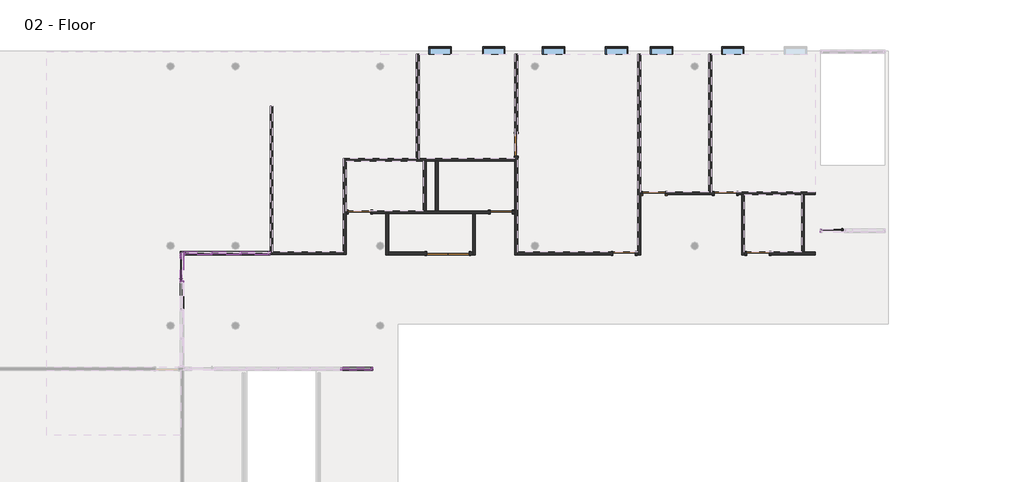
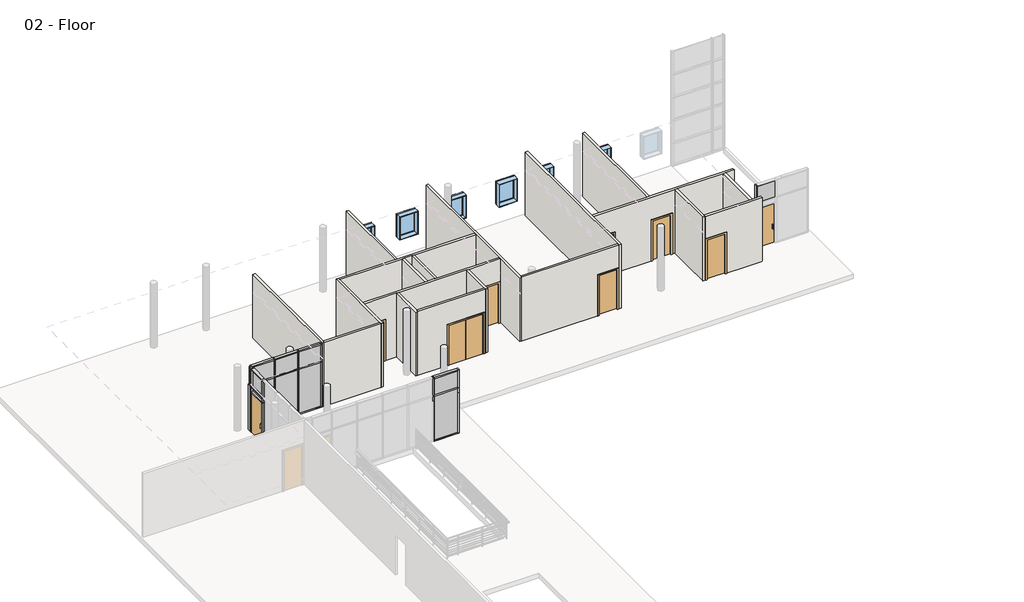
# One storey, part 3 of 5: 40 members, 19 walls, 13 plates, 10 doors, 6 windows.
"""IFC4 building model written with IfcOpenShell, lengths in millimetres."""

from ifc_helpers import new_model, si_unit, frame, origin, place, context, project, spatial, polyline, outline, extrude, faceted_brep, transform, mapped, element, save
from components import curtain_wall_sgl_glass_curtain_wall_sgl_glass_c2d4b377, curtain_wall_sgl_glass_curtain_wall_sgl_glass_ab2568d1, door_80fcf8b2, door_305aa2a5, door_e5f9f3c4, member_47e31e63, member_f0fea5a5, member_ee409385, member_18e22e2d, member_9193c932, member_c617b399, member_69c8e218, member_a08f6adc, member_e80433b6, member_4904f910, member_6ef8dc49, member_309cb93c, member_c327c56d, member_410c6227, member_73c23c35, member_6186cc23, member_5d67b9fc, member_a50b3cda, member_0f16ceef, member_7712ce12, member_ba732fc4, system_panel_glazed_d847cfee, system_panel_glazed_a5fae1e5, system_panel_glazed_8c2c847a, system_panel_glazed_087d2106, system_panel_glazed_8a7cc684, system_panel_glazed_e676b032, system_panel_glazed_652e8fc4, system_panel_glazed_63e32c76, system_panel_glazed_72fe8651, system_panel_glazed_1b64d018, system_panel_glazed_47952c94, system_panel_glazed_99e16266, window_dfee3f32

model = new_model("IFC4")

# Units and contexts
model_context = context("Model", 3, world=origin())
ifc_project = project(units=[si_unit("LENGTHUNIT", "METRE", prefix="MILLI")], contexts=[model_context])

# Site, building, storey
site = spatial("IfcSite", under=ifc_project)
building = spatial("IfcBuilding", under=site)
storey = spatial("IfcBuildingStorey", under=building, Name="02 - Floor", Elevation=3657.6)

# Doors
placement = place(None, origin())
curtain_wall_sgl_glass_curtain_wall_sgl_glass_shape = curtain_wall_sgl_glass_curtain_wall_sgl_glass_c2d4b377(model_context)
element("IfcDoor", 1, ObjectType="Curtain Wall Sgl Glass : Curtain Wall Sgl Glass", at=placement, inside=storey, context=model_context, shape_type="MappedRepresentation", body=[
    mapped(curtain_wall_sgl_glass_curtain_wall_sgl_glass_shape, transform((34925.9207476, 46523.2, 3657.6), x_axis=(-1.0, 0.0, 0.0), y_axis=(0.0, -1.0, 0.0), z_axis=(0.0, 0.0, 1.0))),
])
curtain_wall_sgl_glass_curtain_wall_sgl_glass_2_shape = curtain_wall_sgl_glass_curtain_wall_sgl_glass_ab2568d1(model_context)
element("IfcDoor", 2, ObjectType="Curtain Wall Sgl Glass : Curtain Wall Sgl Glass", at=placement, inside=storey, context=model_context, shape_type="MappedRepresentation", body=[
    mapped(curtain_wall_sgl_glass_curtain_wall_sgl_glass_2_shape, transform((8421.0207476, 44935.7, 3657.6), x_axis=(0.0, 1.0, 0.0), y_axis=(-1.0, 0.0, 0.0), z_axis=(0.0, 0.0, 1.0))),
])
door_shape = door_80fcf8b2(model_context)
element("IfcDoor", 3, ObjectType="Double-Flush : 68\" x 84\"", at=placement, inside=storey, context=model_context, shape_type="MappedRepresentation", body=[
    mapped(door_shape, transform((19241.4207476, 45602.45, 3657.6), x_axis=(-1.0, 0.0, 0.0), y_axis=(0.0, -1.0, 0.0), z_axis=(0.0, 0.0, 1.0))),
])
door_2_shape = door_305aa2a5(model_context)
element("IfcDoor", 4, ObjectType="Single-Flush : 36\" x 84\"", at=placement, inside=storey, context=model_context, shape_type="MappedRepresentation", body=[
    mapped(door_2_shape, transform((15647.3207476, 47281.2000002, 3657.6), x_axis=(-1.0, 0.0, 0.0), y_axis=(0.0, -1.0, 0.0), z_axis=(0.0, 0.0, 1.0))),
])
element("IfcDoor", 5, ObjectType="Single-Flush : 36\" x 84\"", at=placement, inside=storey, context=model_context, shape_type="MappedRepresentation", body=[
    mapped(door_2_shape, transform((22022.7207476, 50015.7, 3657.6), x_axis=(0.0, -1.0, 0.0), y_axis=(1.0, 0.0, 0.0), z_axis=(0.0, 0.0, 1.0))),
])
element("IfcDoor", 6, ObjectType="Single-Flush : 36\" x 84\"", at=placement, inside=storey, context=model_context, shape_type="MappedRepresentation", body=[
    mapped(door_2_shape, transform((27636.1207476, 48047.2, 3657.6), x_axis=(-1.0, 0.0, 0.0), y_axis=(0.0, -1.0, 0.0), z_axis=(0.0, 0.0, 1.0))),
])
element("IfcDoor", 7, ObjectType="Single-Flush : 36\" x 84\"", at=placement, inside=storey, context=model_context, shape_type="MappedRepresentation", body=[
    mapped(door_2_shape, transform((30531.7207476, 48047.2, 3657.6), x_axis=(-1.0, 0.0, 0.0), y_axis=(0.0, -1.0, 0.0), z_axis=(0.0, 0.0, 1.0))),
])
element("IfcDoor", 8, ObjectType="Single-Flush : 36\" x 84\"", at=placement, inside=storey, context=model_context, shape_type="MappedRepresentation", body=[
    mapped(door_2_shape, transform((31865.2207476, 45602.45, 3657.6), x_axis=(-1.0, 0.0, 0.0), y_axis=(0.0, -1.0, 0.0), z_axis=(0.0, 0.0, 1.0))),
])
door_3_shape = door_e5f9f3c4(model_context)
element("IfcDoor", 9, ObjectType="Single-Flush : 36\" x 84\"", at=placement, inside=storey, context=model_context, shape_type="MappedRepresentation", body=[
    mapped(door_3_shape, transform((21413.1207476, 47281.2000002, 3657.6), x_axis=(1.0, 0.0, 0.0), y_axis=(0.0, 1.0, 0.0), z_axis=(0.0, 0.0, 1.0))),
])
element("IfcDoor", 10, ObjectType="Single-Flush : 36\" x 84\"", at=placement, inside=storey, context=model_context, shape_type="MappedRepresentation", body=[
    mapped(door_3_shape, transform((26416.9207476, 45602.45, 3657.6), x_axis=(1.0, 0.0, 0.0), y_axis=(0.0, 1.0, 0.0), z_axis=(0.0, 0.0, 1.0))),
])

# Members
member_shape = member_47e31e63(model_context)
element("IfcMember", 11, ObjectType="L Corner Mullion : 5\" x 5\" Corner", at=placement, inside=storey, context=model_context, shape_type="MappedRepresentation", body=[
    mapped(member_shape, transform((8421.0207476, 45608.8, 3657.6), x_axis=(-1.0, 0.0, 0.0), y_axis=(0.0, 1.0, 0.0), z_axis=(0.0, 0.0, -1.0))),
])
member_2_shape = member_f0fea5a5(model_context)
element("IfcMember", 12, ObjectType="Rectangular Mullion : 2.5\" x 5\" rectangular", at=placement, inside=storey, context=model_context, shape_type="MappedRepresentation", body=[
    mapped(member_2_shape, transform((10808.6207476, 45608.8, 3657.6), x_axis=(-1.0, 0.0, 0.0), y_axis=(0.0, 1.0, 0.0), z_axis=(0.0, 0.0, -1.0))),
])
element("IfcMember", 13, ObjectType="Rectangular Mullion : 2.5\" x 5\" rectangular", at=placement, inside=storey, context=model_context, shape_type="MappedRepresentation", body=[
    mapped(member_2_shape, transform((9614.8207476, 45608.8, 3657.6), x_axis=(-1.0, 0.0, 0.0), y_axis=(0.0, 1.0, 0.0), z_axis=(0.0, 0.0, -1.0))),
])
member_3_shape = member_ee409385(model_context)
element("IfcMember", 14, ObjectType="Rectangular Mullion : 2.5\" x 5\" rectangular", at=placement, inside=storey, context=model_context, shape_type="MappedRepresentation", body=[
    mapped(member_3_shape, transform((12002.4207476, 45608.8, 6096.0), x_axis=(1.0, 0.0, 0.0), y_axis=(0.0, 1.0, 0.0), z_axis=(0.0, 0.0, 1.0))),
])
member_4_shape = member_18e22e2d(model_context)
element("IfcMember", 15, ObjectType="Rectangular Mullion : 2.5\" x 5\" rectangular", at=placement, inside=storey, context=model_context, shape_type="MappedRepresentation", body=[
    mapped(member_4_shape, transform((14904.846391, 40897.1, 6096.0), x_axis=(-1.0, 0.0, 0.0), y_axis=(0.0, 1.0, 0.0), z_axis=(0.0, 0.0, -1.0))),
])
element("IfcMember", 16, ObjectType="Rectangular Mullion : 2.5\" x 5\" rectangular", at=placement, inside=storey, context=model_context, shape_type="MappedRepresentation", body=[
    mapped(member_4_shape, transform((10808.6207476, 45608.8, 6096.0), x_axis=(-1.0, 0.0, 0.0), y_axis=(0.0, 1.0, 0.0), z_axis=(0.0, 0.0, -1.0))),
])
element("IfcMember", 17, ObjectType="Rectangular Mullion : 2.5\" x 5\" rectangular", at=placement, inside=storey, context=model_context, shape_type="MappedRepresentation", body=[
    mapped(member_4_shape, transform((9614.8207476, 45608.8, 6096.0), x_axis=(-1.0, 0.0, 0.0), y_axis=(0.0, 1.0, 0.0), z_axis=(0.0, 0.0, -1.0))),
])
element("IfcMember", 18, ObjectType="Rectangular Mullion : 2.5\" x 5\" rectangular", at=placement, inside=storey, context=model_context, shape_type="MappedRepresentation", body=[
    mapped(member_4_shape, transform((8421.0207476, 44446.75, 6096.0), x_axis=(0.0, -1.0, 0.0), y_axis=(-1.0, 0.0, 0.0), z_axis=(0.0, 0.0, -1.0))),
])
element("IfcMember", 19, ObjectType="Rectangular Mullion : 2.5\" x 5\" rectangular", at=placement, inside=storey, context=model_context, shape_type="MappedRepresentation", body=[
    mapped(member_4_shape, transform((8421.0207476, 45424.65, 6096.0), x_axis=(0.0, -1.0, 0.0), y_axis=(-1.0, 0.0, 0.0), z_axis=(0.0, 0.0, -1.0))),
])
member_5_shape = member_9193c932(model_context)
element("IfcMember", 20, ObjectType="Rectangular Mullion : 2.5\" x 5\" rectangular", at=placement, inside=storey, context=model_context, shape_type="MappedRepresentation", body=[
    mapped(member_5_shape, transform((16188.9115197, 40897.1, 7061.2), x_axis=(1.0, 0.0, 0.0), y_axis=(0.0, 1.0, 0.0), z_axis=(0.0, 0.0, 1.0))),
])
element("IfcMember", 21, ObjectType="Rectangular Mullion : 2.5\" x 5\" rectangular", at=placement, inside=storey, context=model_context, shape_type="MappedRepresentation", body=[
    mapped(member_5_shape, transform((12002.4207476, 45608.8, 7061.2), x_axis=(1.0, 0.0, 0.0), y_axis=(0.0, 1.0, 0.0), z_axis=(0.0, 0.0, 1.0))),
])
element("IfcMember", 22, ObjectType="Rectangular Mullion : 2.5\" x 5\" rectangular", at=placement, inside=storey, context=model_context, shape_type="MappedRepresentation", body=[
    mapped(member_5_shape, transform((34405.2207476, 46523.2, 7061.2), x_axis=(-1.0, 0.0, 0.0), y_axis=(0.0, -1.0, 0.0), z_axis=(0.0, 0.0, 1.0))),
])
member_6_shape = member_c617b399(model_context)
element("IfcMember", 23, ObjectType="Rectangular Mullion : 2.5\" x 5\" rectangular", at=placement, inside=storey, context=model_context, shape_type="MappedRepresentation", body=[
    mapped(member_6_shape, transform((14936.596391, 40897.1, 7061.2), x_axis=(0.0, 0.0, 1.0), y_axis=(0.0, 1.0, 0.0), z_axis=(-1.0, 0.0, 0.0))),
])
element("IfcMember", 24, ObjectType="Rectangular Mullion : 2.5\" x 5\" rectangular", at=placement, inside=storey, context=model_context, shape_type="MappedRepresentation", body=[
    mapped(member_6_shape, transform((16125.4115197, 40897.1, 3657.6), x_axis=(0.0, 0.0, -1.0), y_axis=(0.0, 1.0, 0.0), z_axis=(1.0, 0.0, 0.0))),
])
member_7_shape = member_69c8e218(model_context)
element("IfcMember", 25, ObjectType="Rectangular Mullion : 2.5\" x 5\" rectangular", at=placement, inside=storey, context=model_context, shape_type="MappedRepresentation", body=[
    mapped(member_7_shape, transform((8484.5207476, 45608.8, 7061.2), x_axis=(0.0, 0.0, 1.0), y_axis=(0.0, 1.0, 0.0), z_axis=(-1.0, 0.0, 0.0))),
])
element("IfcMember", 26, ObjectType="Rectangular Mullion : 2.5\" x 5\" rectangular", at=placement, inside=storey, context=model_context, shape_type="MappedRepresentation", body=[
    mapped(member_7_shape, transform((10840.3707476, 45608.8, 7061.2), x_axis=(0.0, 0.0, 1.0), y_axis=(0.0, 1.0, 0.0), z_axis=(-1.0, 0.0, 0.0))),
])
element("IfcMember", 27, ObjectType="Rectangular Mullion : 2.5\" x 5\" rectangular", at=placement, inside=storey, context=model_context, shape_type="MappedRepresentation", body=[
    mapped(member_7_shape, transform((11938.9207476, 45608.8, 3657.6), x_axis=(0.0, 0.0, -1.0), y_axis=(0.0, 1.0, 0.0), z_axis=(1.0, 0.0, 0.0))),
])
element("IfcMember", 28, ObjectType="Rectangular Mullion : 2.5\" x 5\" rectangular", at=placement, inside=storey, context=model_context, shape_type="MappedRepresentation", body=[
    mapped(member_7_shape, transform((8421.0207476, 44415.0, 3657.6), x_axis=(0.0, 0.0, -1.0), y_axis=(-1.0, 0.0, 0.0), z_axis=(0.0, 1.0, 0.0))),
])
member_8_shape = member_a08f6adc(model_context)
element("IfcMember", 29, ObjectType="Rectangular Mullion : 2.5\" x 5\" rectangular", at=placement, inside=storey, context=model_context, shape_type="MappedRepresentation", body=[
    mapped(member_8_shape, transform((10776.8707476, 45608.8, 3657.6), x_axis=(0.0, 0.0, -1.0), y_axis=(0.0, 1.0, 0.0), z_axis=(1.0, 0.0, 0.0))),
])
member_9_shape = member_e80433b6(model_context)
element("IfcMember", 30, ObjectType="Rectangular Mullion : 2.5\" x 5\" rectangular", at=placement, inside=storey, context=model_context, shape_type="MappedRepresentation", body=[
    mapped(member_9_shape, transform((10840.3707476, 45608.8, 6096.0), x_axis=(0.0, 0.0, 1.0), y_axis=(0.0, 1.0, 0.0), z_axis=(-1.0, 0.0, 0.0))),
])
member_10_shape = member_4904f910(model_context)
element("IfcMember", 31, ObjectType="Rectangular Mullion : 2.5\" x 5\" rectangular", at=placement, inside=storey, context=model_context, shape_type="MappedRepresentation", body=[
    mapped(member_10_shape, transform((9646.5707476, 45608.8, 6096.0), x_axis=(0.0, 0.0, 1.0), y_axis=(0.0, 1.0, 0.0), z_axis=(-1.0, 0.0, 0.0))),
])
element("IfcMember", 32, ObjectType="Rectangular Mullion : 2.5\" x 5\" rectangular", at=placement, inside=storey, context=model_context, shape_type="MappedRepresentation", body=[
    mapped(member_8_shape, transform((9646.5707476, 45608.8, 7061.2), x_axis=(0.0, 0.0, 1.0), y_axis=(0.0, 1.0, 0.0), z_axis=(-1.0, 0.0, 0.0))),
])
element("IfcMember", 33, ObjectType="Rectangular Mullion : 2.5\" x 5\" rectangular", at=placement, inside=storey, context=model_context, shape_type="MappedRepresentation", body=[
    mapped(member_5_shape, transform((8421.0207476, 45608.8, 6096.0), x_axis=(-1.0, 0.0, 0.0), y_axis=(0.0, 1.0, 0.0), z_axis=(0.0, 0.0, -1.0))),
])
element("IfcMember", 34, ObjectType="Rectangular Mullion : 2.5\" x 5\" rectangular", at=placement, inside=storey, context=model_context, shape_type="MappedRepresentation", body=[
    mapped(member_5_shape, transform((8421.0207476, 45608.8, 7061.2), x_axis=(0.0, 1.0, 0.0), y_axis=(-1.0, 0.0, 0.0), z_axis=(0.0, 0.0, 1.0))),
])
member_11_shape = member_6ef8dc49(model_context)
element("IfcMember", 35, ObjectType="Rectangular Mullion : 2.5\" x 5\" rectangular", at=placement, inside=storey, context=model_context, shape_type="MappedRepresentation", body=[
    mapped(member_11_shape, transform((9583.0707476, 45608.8, 3657.6), x_axis=(0.0, 0.0, -1.0), y_axis=(0.0, 1.0, 0.0), z_axis=(1.0, 0.0, 0.0))),
])
member_12_shape = member_309cb93c(model_context)
element("IfcMember", 36, ObjectType="Rectangular Mullion : 2.5\" x 5\" rectangular", at=placement, inside=storey, context=model_context, shape_type="MappedRepresentation", body=[
    mapped(member_12_shape, transform((8548.0207476, 45608.8, 6096.0), x_axis=(0.0, 0.0, 1.0), y_axis=(0.0, 1.0, 0.0), z_axis=(-1.0, 0.0, 0.0))),
])
member_13_shape = member_c327c56d(model_context)
element("IfcMember", 37, ObjectType="Rectangular Mullion : 2.5\" x 5\" rectangular", at=placement, inside=storey, context=model_context, shape_type="MappedRepresentation", body=[
    mapped(member_13_shape, transform((34405.2207476, 46523.2, 6096.0), x_axis=(-1.0, 0.0, 0.0), y_axis=(0.0, -1.0, 0.0), z_axis=(0.0, 0.0, 1.0))),
])
member_14_shape = member_410c6227(model_context)
element("IfcMember", 38, ObjectType="Rectangular Mullion : 2.5\" x 5\" rectangular", at=placement, inside=storey, context=model_context, shape_type="MappedRepresentation", body=[
    mapped(member_14_shape, transform((8421.0207476, 44478.5, 6096.0), x_axis=(0.0, 0.0, 1.0), y_axis=(-1.0, 0.0, 0.0), z_axis=(0.0, -1.0, 0.0))),
])
element("IfcMember", 39, ObjectType="Rectangular Mullion : 2.5\" x 5\" rectangular", at=placement, inside=storey, context=model_context, shape_type="MappedRepresentation", body=[
    mapped(member_14_shape, transform((8421.0207476, 44478.5, 5822.95), x_axis=(0.0, 0.0, 1.0), y_axis=(-1.0, 0.0, 0.0), z_axis=(0.0, -1.0, 0.0))),
])
member_15_shape = member_73c23c35(model_context)
element("IfcMember", 40, ObjectType="Rectangular Mullion : 2.5\" x 5\" rectangular", at=placement, inside=storey, context=model_context, shape_type="MappedRepresentation", body=[
    mapped(member_15_shape, transform((8421.0207476, 44478.5, 7061.2), x_axis=(0.0, 0.0, 1.0), y_axis=(-1.0, 0.0, 0.0), z_axis=(0.0, -1.0, 0.0))),
])
member_16_shape = member_6186cc23(model_context)
element("IfcMember", 41, ObjectType="Rectangular Mullion : 2.5\" x 5\" rectangular", at=placement, inside=storey, context=model_context, shape_type="MappedRepresentation", body=[
    mapped(member_16_shape, transform((8421.0207476, 44446.75, 3657.6), x_axis=(0.0, -1.0, 0.0), y_axis=(-1.0, 0.0, 0.0), z_axis=(0.0, 0.0, -1.0))),
])
element("IfcMember", 42, ObjectType="Rectangular Mullion : 2.5\" x 5\" rectangular", at=placement, inside=storey, context=model_context, shape_type="MappedRepresentation", body=[
    mapped(member_16_shape, transform((8421.0207476, 45424.65, 3657.6), x_axis=(0.0, -1.0, 0.0), y_axis=(-1.0, 0.0, 0.0), z_axis=(0.0, 0.0, -1.0))),
])
member_17_shape = member_5d67b9fc(model_context)
element("IfcMember", 43, ObjectType="Rectangular Mullion : 2.5\" x 5\" rectangular", at=placement, inside=storey, context=model_context, shape_type="MappedRepresentation", body=[
    mapped(member_17_shape, transform((8421.0207476, 45424.65, 5822.95), x_axis=(0.0, -1.0, 0.0), y_axis=(-1.0, 0.0, 0.0), z_axis=(0.0, 0.0, -1.0))),
])
element("IfcMember", 44, ObjectType="Rectangular Mullion : 2.5\" x 5\" rectangular", at=placement, inside=storey, context=model_context, shape_type="MappedRepresentation", body=[
    mapped(member_17_shape, transform((8421.0207476, 44446.75, 5822.95), x_axis=(0.0, -1.0, 0.0), y_axis=(-1.0, 0.0, 0.0), z_axis=(0.0, 0.0, -1.0))),
])
element("IfcMember", 45, ObjectType="Rectangular Mullion : 2.5\" x 5\" rectangular", at=placement, inside=storey, context=model_context, shape_type="MappedRepresentation", body=[
    mapped(member_17_shape, transform((14904.846391, 40897.1, 5822.95), x_axis=(-1.0, 0.0, 0.0), y_axis=(0.0, 1.0, 0.0), z_axis=(0.0, 0.0, -1.0))),
])
element("IfcMember", 46, ObjectType="Rectangular Mullion : 2.5\" x 5\" rectangular", at=placement, inside=storey, context=model_context, shape_type="MappedRepresentation", body=[
    mapped(member_13_shape, transform((16188.9115197, 40897.1, 6096.0), x_axis=(1.0, 0.0, 0.0), y_axis=(0.0, 1.0, 0.0), z_axis=(0.0, 0.0, 1.0))),
])
member_18_shape = member_a50b3cda(model_context)
element("IfcMember", 47, ObjectType="Rectangular Mullion : 2.5\" x 5\" rectangular", at=placement, inside=storey, context=model_context, shape_type="MappedRepresentation", body=[
    mapped(member_18_shape, transform((16188.9115197, 40897.1, 5822.95), x_axis=(1.0, 0.0, 0.0), y_axis=(0.0, 1.0, 0.0), z_axis=(0.0, 0.0, 1.0))),
])
member_19_shape = member_0f16ceef(model_context)
element("IfcMember", 48, ObjectType="Rectangular Mullion : 2.5\" x 5\" rectangular", at=placement, inside=storey, context=model_context, shape_type="MappedRepresentation", body=[
    mapped(member_19_shape, transform((8421.0207476, 45456.4, 6096.0), x_axis=(0.0, 0.0, 1.0), y_axis=(-1.0, 0.0, 0.0), z_axis=(0.0, -1.0, 0.0))),
])
member_20_shape = member_7712ce12(model_context)
element("IfcMember", 49, ObjectType="Rectangular Mullion : 2.5\" x 5\" rectangular", at=placement, inside=storey, context=model_context, shape_type="MappedRepresentation", body=[
    mapped(member_20_shape, transform((8421.0207476, 45456.4, 7061.2), x_axis=(0.0, 0.0, 1.0), y_axis=(-1.0, 0.0, 0.0), z_axis=(0.0, -1.0, 0.0))),
])
member_21_shape = member_ba732fc4(model_context)
element("IfcMember", 50, ObjectType="Rectangular Mullion : 2.5\" x 5\" rectangular", at=placement, inside=storey, context=model_context, shape_type="MappedRepresentation", body=[
    mapped(member_21_shape, transform((8421.0207476, 45481.8, 3657.6), x_axis=(0.0, 0.0, -1.0), y_axis=(-1.0, 0.0, 0.0), z_axis=(0.0, 1.0, 0.0))),
])

# Plates
system_panel_glazed_shape = system_panel_glazed_d847cfee(model_context)
element("IfcPlate", 51, ObjectType="System Panel : Glazed", at=placement, inside=storey, context=model_context, shape_type="MappedRepresentation", body=[
    mapped(system_panel_glazed_shape, transform((11389.6457476, 45608.8, 3721.1), x_axis=(-1.0, 0.0, 0.0), y_axis=(0.0, -1.0, 0.0), z_axis=(0.0, 0.0, 1.0))),
])
system_panel_glazed_2_shape = system_panel_glazed_a5fae1e5(model_context)
element("IfcPlate", 52, ObjectType="System Panel : Glazed", at=placement, inside=storey, context=model_context, shape_type="MappedRepresentation", body=[
    mapped(system_panel_glazed_2_shape, transform((10211.7207476, 45608.8, 3721.1), x_axis=(-1.0, 0.0, 0.0), y_axis=(0.0, -1.0, 0.0), z_axis=(0.0, 0.0, 1.0))),
])
system_panel_glazed_3_shape = system_panel_glazed_8c2c847a(model_context)
element("IfcPlate", 53, ObjectType="System Panel : Glazed", at=placement, inside=storey, context=model_context, shape_type="MappedRepresentation", body=[
    mapped(system_panel_glazed_3_shape, transform((11389.6457476, 45608.8, 6127.75), x_axis=(-1.0, 0.0, 0.0), y_axis=(0.0, -1.0, 0.0), z_axis=(0.0, 0.0, 1.0))),
])
element("IfcPlate", 54, ObjectType="System Panel : Glazed", at=placement, inside=storey, context=model_context, shape_type="MappedRepresentation", body=[
    mapped(system_panel_glazed_3_shape, transform((9033.7957476, 45608.8, 6127.75), x_axis=(-1.0, 0.0, 0.0), y_axis=(0.0, -1.0, 0.0), z_axis=(0.0, 0.0, 1.0))),
])
system_panel_glazed_4_shape = system_panel_glazed_087d2106(model_context)
element("IfcPlate", 55, ObjectType="System Panel : Glazed", at=placement, inside=storey, context=model_context, shape_type="MappedRepresentation", body=[
    mapped(system_panel_glazed_4_shape, transform((10211.7207476, 45608.8, 6127.75), x_axis=(-1.0, 0.0, 0.0), y_axis=(0.0, -1.0, 0.0), z_axis=(0.0, 0.0, 1.0))),
])
system_panel_glazed_5_shape = system_panel_glazed_8a7cc684(model_context)
element("IfcPlate", 56, ObjectType="System Panel : Glazed", at=placement, inside=storey, context=model_context, shape_type="MappedRepresentation", body=[
    mapped(system_panel_glazed_5_shape, transform((15531.0039553, 40897.1, 6127.75), x_axis=(-1.0, 0.0, 0.0), y_axis=(0.0, -1.0, 0.0), z_axis=(0.0, 0.0, 1.0))),
])
system_panel_glazed_6_shape = system_panel_glazed_e676b032(model_context)
element("IfcPlate", 57, ObjectType="System Panel : Glazed", at=placement, inside=storey, context=model_context, shape_type="MappedRepresentation", body=[
    mapped(system_panel_glazed_6_shape, transform((9065.5457476, 45608.8, 3721.1), x_axis=(-1.0, 0.0, 0.0), y_axis=(0.0, -1.0, 0.0), z_axis=(0.0, 0.0, 1.0))),
])
system_panel_glazed_7_shape = system_panel_glazed_652e8fc4(model_context)
element("IfcPlate", 58, ObjectType="System Panel : Glazed", at=placement, inside=storey, context=model_context, shape_type="MappedRepresentation", body=[
    mapped(system_panel_glazed_7_shape, transform((34925.9207476, 46523.2, 6127.75), x_axis=(1.0, 0.0, 0.0), y_axis=(0.0, 1.0, 0.0), z_axis=(0.0, 0.0, 1.0))),
])
system_panel_glazed_8_shape = system_panel_glazed_63e32c76(model_context)
element("IfcPlate", 59, ObjectType="System Panel : Glazed", at=placement, inside=storey, context=model_context, shape_type="MappedRepresentation", body=[
    mapped(system_panel_glazed_8_shape, transform((8421.0207476, 44935.7, 6127.75), x_axis=(0.0, -1.0, 0.0), y_axis=(1.0, 0.0, 0.0), z_axis=(0.0, 0.0, 1.0))),
])
system_panel_glazed_9_shape = system_panel_glazed_72fe8651(model_context)
element("IfcPlate", 60, ObjectType="System Panel : Glazed", at=placement, inside=storey, context=model_context, shape_type="MappedRepresentation", body=[
    mapped(system_panel_glazed_9_shape, transform((8421.0207476, 44935.7, 5854.7), x_axis=(0.0, -1.0, 0.0), y_axis=(1.0, 0.0, 0.0), z_axis=(0.0, 0.0, 1.0))),
])
system_panel_glazed_10_shape = system_panel_glazed_1b64d018(model_context)
element("IfcPlate", 61, ObjectType="System Panel : Glazed", at=placement, inside=storey, context=model_context, shape_type="MappedRepresentation", body=[
    mapped(system_panel_glazed_10_shape, transform((15531.0039553, 40897.1, 3721.1), x_axis=(-1.0, 0.0, 0.0), y_axis=(0.0, -1.0, 0.0), z_axis=(0.0, 0.0, 1.0))),
])
system_panel_glazed_11_shape = system_panel_glazed_47952c94(model_context)
element("IfcPlate", 62, ObjectType="System Panel : Glazed", at=placement, inside=storey, context=model_context, shape_type="MappedRepresentation", body=[
    mapped(system_panel_glazed_11_shape, transform((8421.0207476, 45500.85, 6127.75), x_axis=(0.0, -1.0, 0.0), y_axis=(1.0, 0.0, 0.0), z_axis=(0.0, 0.0, 1.0))),
])
system_panel_glazed_12_shape = system_panel_glazed_99e16266(model_context)
element("IfcPlate", 63, ObjectType="System Panel : Glazed", at=placement, inside=storey, context=model_context, shape_type="MappedRepresentation", body=[
    mapped(system_panel_glazed_12_shape, transform((8421.0207476, 45469.1, 3721.1), x_axis=(0.0, 1.0, 0.0), y_axis=(-1.0, 0.0, 0.0), z_axis=(0.0, 0.0, 1.0))),
])

# Walls
element("IfcWall", 64, ObjectType="Typ. Partition Wall", at=placement, inside=storey, context=model_context, shape_type="Brep", body=[
    faceted_brep([(31408.0207476, 45659.6, 5791.2), (31408.0207476, 45659.6, 3657.6), (31312.7707476, 45659.6, 3657.6), (31312.7707476, 45659.6, 7061.2), (33636.8707476, 45659.6, 7061.2), (33751.1707476, 45659.6, 7061.2), (34194.0832476, 45659.6, 7061.2), (34194.0832476, 45659.6, 3657.6), (33751.1707476, 45659.6, 3657.6), (33636.8707476, 45659.6, 3657.6), (32322.4207476, 45659.6, 3657.6), (32322.4207476, 45659.6, 5791.2), (31312.7707476, 45545.3, 3657.6), (31408.0207476, 45545.3, 3657.6), (31408.0207476, 45545.3, 5791.2), (32322.4207476, 45545.3, 5791.2), (32322.4207476, 45545.3, 3657.6), (34194.0832476, 45545.3, 3657.6), (34194.0832476, 45545.3, 7061.2), (31312.7707476, 45545.3, 7061.2)], [[[0, 1, 2, 3, 4, 5, 6, 7, 8, 9, 10, 11]], [[12, 13, 14, 15, 16, 17, 18, 19]], [[2, 1, 13, 12]], [[10, 9, 8, 7, 17, 16]], [[6, 5, 4, 3, 19, 18]], [[7, 6, 18, 17]], [[3, 2, 12, 19]], [[14, 13, 1, 0]], [[15, 14, 0, 11]], [[16, 15, 11, 10]]]),
])
element("IfcWall", 65, ObjectType="Typ. Partition Wall", at=placement, inside=storey, context=model_context, shape_type="Brep", body=[
    faceted_brep([(14980.5707476, 49471.9500002, 3657.6), (14980.5707476, 45665.95, 3657.6), (14980.5707476, 45551.65, 3657.6), (14980.5707476, 45551.65, 7061.2), (14980.5707476, 45665.95, 7061.2), (14980.5707476, 49471.9500002, 7061.2), (15094.8707476, 49471.9500002, 3657.6), (15094.8707476, 49471.9500002, 7061.2), (15094.8707476, 49357.6500002, 7061.2), (15094.8707476, 47338.3500002, 7061.2), (15094.8707476, 47224.0500002, 7061.2), (15094.8707476, 45551.65, 7061.2), (15094.8707476, 45551.65, 3657.6), (15094.8707476, 47224.0500002, 3657.6), (15094.8707476, 47338.3500002, 3657.6), (15094.8707476, 49357.6500002, 3657.6)], [[[0, 1, 2, 3, 4, 5]], [[6, 7, 8, 9, 10, 11, 12, 13, 14, 15]], [[2, 1, 0, 6, 15, 14, 13, 12]], [[0, 5, 7, 6]], [[3, 2, 12, 11]], [[5, 4, 3, 11, 10, 9, 8, 7]]]),
])
element("IfcWall", 66, ObjectType="Typ. Partition Wall", at=placement, inside=storey, context=model_context, shape_type="Brep", body=[
    faceted_brep([(22079.8707476, 45545.3, 3657.6), (22079.8707476, 45659.6, 3657.6), (22079.8707476, 49558.5, 3657.6), (22079.8707476, 49558.5, 5791.2), (22079.8707476, 50472.9, 5791.2), (22079.8707476, 50472.9, 3657.6), (22079.8707476, 53724.1, 3657.6), (22079.8707476, 53724.1, 7061.2), (22079.8707476, 45659.6, 7061.2), (22079.8707476, 45545.3, 7061.2), (21965.5707476, 49558.5, 5791.2), (21965.5707476, 49558.5, 3657.6), (21965.5707476, 49471.9500002, 3657.6), (21965.5707476, 49357.6500002, 3657.6), (21965.5707476, 47338.3500002, 3657.6), (21965.5707476, 47224.0500002, 3657.6), (21965.5707476, 45545.3, 3657.6), (21965.5707476, 45545.3, 7061.2), (21965.5707476, 47224.0500002, 7061.2), (21965.5707476, 47338.3500002, 7061.2), (21965.5707476, 49357.6500002, 7061.2), (21965.5707476, 49471.9500002, 7061.2), (21965.5707476, 53724.1, 7061.2), (21965.5707476, 53724.1, 3657.6), (21965.5707476, 50472.9, 3657.6), (21965.5707476, 50472.9, 5791.2)], [[[0, 1, 2, 3, 4, 5, 6, 7, 8, 9]], [[10, 11, 12, 13, 14, 15, 16, 17, 18, 19, 20, 21, 22, 23, 24, 25]], [[16, 15, 14, 13, 12, 11, 2, 1, 0]], [[24, 23, 6, 5]], [[7, 6, 23, 22]], [[0, 9, 17, 16]], [[9, 8, 7, 22, 21, 20, 19, 18, 17]], [[3, 2, 11, 10]], [[4, 3, 10, 25]], [[5, 4, 25, 24]]]),
])
element("IfcWall", 67, ObjectType="Typ. Partition Wall", at=placement, inside=storey, context=model_context, shape_type="Brep", body=[
    faceted_brep([(27083.6707476, 45545.3, 3657.6), (27083.6707476, 47990.05, 3657.6), (27083.6707476, 48104.35, 3657.6), (27083.6707476, 53724.1, 3657.6), (27083.6707476, 53724.1, 7061.2), (27083.6707476, 48104.35, 7061.2), (27083.6707476, 47990.05, 7061.2), (27083.6707476, 45545.3, 7061.2), (26969.3707476, 45545.3, 3657.6), (26969.3707476, 45545.3, 7061.2), (26969.3707476, 45659.6, 7061.2), (26969.3707476, 53724.1, 7061.2), (26969.3707476, 53724.1, 3657.6), (26969.3707476, 45659.6, 3657.6)], [[[0, 1, 2, 3, 4, 5, 6, 7]], [[8, 9, 10, 11, 12, 13]], [[3, 2, 1, 0, 8, 13, 12]], [[0, 7, 9, 8]], [[4, 3, 12, 11]], [[7, 6, 5, 4, 11, 10, 9]]]),
])
element("IfcWall", 68, ObjectType="Typ. Partition Wall", at=placement, inside=storey, context=model_context, shape_type="SweptSolid", body=[
    extrude(outline(polyline([(29979.2707476, 53724.1), (29979.2707476, 48104.35), (29864.9707476, 48104.35), (29864.9707476, 53724.1), (29979.2707476, 53724.1)])), frame((0.0, 0.0, 3657.6), z_axis=(0.0, 0.0, 1.0), x_axis=(1.0, 0.0, 0.0)), (0.0, 0.0, 1.0), 3403.6),
])
element("IfcWall", 69, ObjectType="Typ. Partition Wall", at=placement, inside=storey, context=model_context, shape_type="Brep", body=[
    faceted_brep([(30074.5207476, 48104.35, 5791.2), (30074.5207476, 48104.35, 3657.6), (29979.2707476, 48104.35, 3657.6), (29864.9707476, 48104.35, 3657.6), (28093.3207476, 48104.35, 3657.6), (28093.3207476, 48104.35, 5791.2), (27178.9207476, 48104.35, 5791.2), (27178.9207476, 48104.35, 3657.6), (27083.6707476, 48104.35, 3657.6), (27083.6707476, 48104.35, 7061.2), (29864.9707476, 48104.35, 7061.2), (29979.2707476, 48104.35, 7061.2), (34194.0832476, 48104.35, 7061.2), (34194.0832476, 48104.35, 3657.6), (30988.9207476, 48104.35, 3657.6), (30988.9207476, 48104.35, 5791.2), (28093.3207476, 47990.05, 3657.6), (30074.5207476, 47990.05, 3657.6), (30074.5207476, 47990.05, 5791.2), (30988.9207476, 47990.05, 5791.2), (30988.9207476, 47990.05, 3657.6), (31198.4707476, 47990.05, 3657.6), (31312.7707476, 47990.05, 3657.6), (33636.8707476, 47990.05, 3657.6), (33751.1707476, 47990.05, 3657.6), (34194.0832476, 47990.05, 3657.6), (34194.0832476, 47990.05, 7061.2), (33751.1707476, 47990.05, 7061.2), (33636.8707476, 47990.05, 7061.2), (31312.7707476, 47990.05, 7061.2), (31198.4707476, 47990.05, 7061.2), (27083.6707476, 47990.05, 7061.2), (27083.6707476, 47990.05, 3657.6), (27178.9207476, 47990.05, 3657.6), (27178.9207476, 47990.05, 5791.2), (28093.3207476, 47990.05, 5791.2)], [[[0, 1, 2, 3, 4, 5, 6, 7, 8, 9, 10, 11, 12, 13, 14, 15]], [[16, 17, 18, 19, 20, 21, 22, 23, 24, 25, 26, 27, 28, 29, 30, 31, 32, 33, 34, 35]], [[8, 7, 33, 32]], [[4, 3, 2, 1, 17, 16]], [[14, 13, 25, 24, 23, 22, 21, 20]], [[13, 12, 26, 25]], [[9, 8, 32, 31]], [[12, 11, 10, 9, 31, 30, 29, 28, 27, 26]], [[34, 33, 7, 6]], [[35, 34, 6, 5]], [[16, 35, 5, 4]], [[18, 17, 1, 0]], [[19, 18, 0, 15]], [[20, 19, 15, 14]]]),
])
element("IfcWall", 70, ObjectType="Typ. Partition Wall", at=placement, inside=storey, context=model_context, shape_type="SweptSolid", body=[
    extrude(outline(polyline([(33751.1707476, 47990.05), (33751.1707476, 45659.6), (33636.8707476, 45659.6), (33636.8707476, 47990.05), (33751.1707476, 47990.05)])), frame((0.0, 0.0, 3657.6), z_axis=(0.0, 0.0, 1.0), x_axis=(1.0, 0.0, 0.0)), (0.0, 0.0, 1.0), 3403.6),
])
element("IfcWall", 71, ObjectType="Typ. Partition Wall", at=placement, inside=storey, context=model_context, shape_type="Brep", body=[
    faceted_brep([(31312.7707476, 45545.3, 3657.6), (31312.7707476, 45659.6, 3657.6), (31312.7707476, 47990.05, 3657.6), (31312.7707476, 47990.05, 7061.2), (31312.7707476, 45659.6, 7061.2), (31312.7707476, 45545.3, 7061.2), (31198.4707476, 45545.3, 3657.6), (31198.4707476, 45545.3, 7061.2), (31198.4707476, 47990.05, 7061.2), (31198.4707476, 47990.05, 3657.6)], [[[0, 1, 2, 3, 4, 5]], [[6, 7, 8, 9]], [[2, 1, 0, 6, 9]], [[3, 2, 9, 8]], [[0, 5, 7, 6]], [[5, 4, 3, 8, 7]]]),
])
element("IfcWall", 72, ObjectType="Typ. Partition Wall", at=placement, inside=storey, context=model_context, shape_type="Brep", body=[
    faceted_brep([(16720.4707476, 47224.0500002, 3657.6), (16720.4707476, 45545.3, 3657.6), (16720.4707476, 45545.3, 7061.2), (16720.4707476, 47224.0500002, 7061.2), (16834.7707476, 47224.0500002, 3657.6), (16834.7707476, 47224.0500002, 7061.2), (16834.7707476, 45659.6, 7061.2), (16834.7707476, 45545.3, 7061.2), (16834.7707476, 45545.3, 3657.6), (16834.7707476, 45659.6, 3657.6)], [[[0, 1, 2, 3]], [[4, 5, 6, 7, 8, 9]], [[1, 0, 4, 9, 8]], [[0, 3, 5, 4]], [[2, 1, 8, 7]], [[3, 2, 7, 6, 5]]]),
])
element("IfcWall", 73, ObjectType="Typ. Partition Wall", at=placement, inside=storey, context=model_context, shape_type="Brep", body=[
    faceted_brep([(20251.0707476, 47224.0500002, 3657.6), (20251.0707476, 45659.6, 3657.6), (20251.0707476, 45545.3, 3657.6), (20251.0707476, 45545.3, 7061.2), (20251.0707476, 45659.6, 7061.2), (20251.0707476, 47224.0500002, 7061.2), (20365.3707476, 47224.0500002, 3657.6), (20365.3707476, 47224.0500002, 7061.2), (20365.3707476, 45545.3, 7061.2), (20365.3707476, 45545.3, 3657.6)], [[[0, 1, 2, 3, 4, 5]], [[6, 7, 8, 9]], [[2, 1, 0, 6, 9]], [[3, 2, 9, 8]], [[0, 5, 7, 6]], [[5, 4, 3, 8, 7]]]),
])
element("IfcWall", 74, ObjectType="Typ. Partition Wall", at=placement, inside=storey, context=model_context, shape_type="SweptSolid", body=[
    extrude(outline(polyline([(17952.3707476, 49471.9500002), (17952.3707476, 53724.1), (18066.6707476, 53724.1), (18066.6707476, 49471.9500002), (17952.3707476, 49471.9500002)])), frame((0.0, 0.0, 3657.6), z_axis=(0.0, 0.0, 1.0), x_axis=(1.0, 0.0, 0.0)), (0.0, 0.0, 1.0), 3403.6),
])
element("IfcWall", 75, ObjectType="Typ. Partition Wall", at=placement, inside=storey, context=model_context, shape_type="Brep", body=[
    faceted_brep([(21965.5707476, 49471.9500002, 3657.6), (18066.6707476, 49471.9500002, 3657.6), (17952.3707476, 49471.9500002, 3657.6), (15094.8707476, 49471.9500002, 3657.6), (15094.8707476, 49471.9500002, 7061.2), (17952.3707476, 49471.9500002, 7061.2), (18066.6707476, 49471.9500002, 7061.2), (21965.5707476, 49471.9500002, 7061.2), (21965.5707476, 49357.6500002, 3657.6), (21965.5707476, 49357.6500002, 7061.2), (18841.3707476, 49357.6500002, 7061.2), (18727.0707476, 49357.6500002, 7061.2), (18358.7707476, 49357.6500002, 7061.2), (18244.4707476, 49357.6500002, 7061.2), (15094.8707476, 49357.6500002, 7061.2), (15094.8707476, 49357.6500002, 3657.6), (18244.4707476, 49357.6500002, 3657.6), (18358.7707476, 49357.6500002, 3657.6), (18727.0707476, 49357.6500002, 3657.6), (18841.3707476, 49357.6500002, 3657.6)], [[[0, 1, 2, 3, 4, 5, 6, 7]], [[8, 9, 10, 11, 12, 13, 14, 15, 16, 17, 18, 19]], [[3, 2, 1, 0, 8, 19, 18, 17, 16, 15]], [[0, 7, 9, 8]], [[4, 3, 15, 14]], [[7, 6, 5, 4, 14, 13, 12, 11, 10, 9]]]),
])
element("IfcWall", 76, ObjectType="Typ. Partition Wall", at=placement, inside=storey, context=model_context, shape_type="Brep", body=[
    faceted_brep([(12008.7707476, 51599.2000002, 3657.6), (12008.7707476, 45551.65, 3657.6), (12008.7707476, 45551.65, 7061.2), (12008.7707476, 51599.2000002, 7061.2), (12123.0707476, 51599.2000002, 3657.6), (12123.0707476, 51599.2000002, 7061.2), (12123.0707476, 45665.95, 7061.2), (12123.0707476, 45551.65, 7061.2), (12123.0707476, 45551.65, 3657.6), (12123.0707476, 45665.95, 3657.6)], [[[0, 1, 2, 3]], [[4, 5, 6, 7, 8, 9]], [[1, 0, 4, 9, 8]], [[0, 3, 5, 4]], [[2, 1, 8, 7]], [[3, 2, 7, 6, 5]]]),
])
element("IfcWall", 77, ObjectType="Typ. Partition Wall", at=placement, inside=storey, context=model_context, shape_type="Brep", body=[
    faceted_brep([(21965.5707476, 47338.3500002, 3657.6), (21870.3207476, 47338.3500002, 3657.6), (21870.3207476, 47338.3500002, 5791.2), (20955.9207476, 47338.3500002, 5791.2), (20955.9207476, 47338.3500002, 3657.6), (18841.3707476, 47338.3500002, 3657.6), (18727.0707476, 47338.3500002, 3657.6), (18358.7707476, 47338.3500002, 3657.6), (18244.4707476, 47338.3500002, 3657.6), (16104.5207476, 47338.3500002, 3657.6), (16104.5207476, 47338.3500002, 5791.2), (15190.1207476, 47338.3500002, 5791.2), (15190.1207476, 47338.3500002, 3657.6), (15094.8707476, 47338.3500002, 3657.6), (15094.8707476, 47338.3500002, 7061.2), (18244.4707476, 47338.3500002, 7061.2), (18358.7707476, 47338.3500002, 7061.2), (18727.0707476, 47338.3500002, 7061.2), (18841.3707476, 47338.3500002, 7061.2), (21965.5707476, 47338.3500002, 7061.2), (21870.3207476, 47224.0500002, 5791.2), (21870.3207476, 47224.0500002, 3657.6), (21965.5707476, 47224.0500002, 3657.6), (21965.5707476, 47224.0500002, 7061.2), (20365.3707476, 47224.0500002, 7061.2), (20251.0707476, 47224.0500002, 7061.2), (16834.7707476, 47224.0500002, 7061.2), (16720.4707476, 47224.0500002, 7061.2), (15094.8707476, 47224.0500002, 7061.2), (15094.8707476, 47224.0500002, 3657.6), (15190.1207476, 47224.0500002, 3657.6), (15190.1207476, 47224.0500002, 5791.2), (16104.5207476, 47224.0500002, 5791.2), (16104.5207476, 47224.0500002, 3657.6), (16720.4707476, 47224.0500002, 3657.6), (16834.7707476, 47224.0500002, 3657.6), (20251.0707476, 47224.0500002, 3657.6), (20365.3707476, 47224.0500002, 3657.6), (20955.9207476, 47224.0500002, 3657.6), (20955.9207476, 47224.0500002, 5791.2)], [[[0, 1, 2, 3, 4, 5, 6, 7, 8, 9, 10, 11, 12, 13, 14, 15, 16, 17, 18, 19]], [[20, 21, 22, 23, 24, 25, 26, 27, 28, 29, 30, 31, 32, 33, 34, 35, 36, 37, 38, 39]], [[13, 12, 30, 29]], [[22, 21, 1, 0]], [[38, 37, 36, 35, 34, 33, 9, 8, 7, 6, 5, 4]], [[14, 13, 29, 28]], [[0, 19, 23, 22]], [[19, 18, 17, 16, 15, 14, 28, 27, 26, 25, 24, 23]], [[31, 30, 12, 11]], [[32, 31, 11, 10]], [[33, 32, 10, 9]], [[2, 1, 21, 20]], [[3, 2, 20, 39]], [[4, 3, 39, 38]]]),
])
element("IfcWall", 78, ObjectType="Typ. Partition Wall", at=placement, inside=storey, context=model_context, shape_type="SweptSolid", body=[
    extrude(outline(polyline([(18244.4707476, 47338.3500002), (18244.4707476, 49357.6500002), (18358.7707476, 49357.6500002), (18358.7707476, 47338.3500002), (18244.4707476, 47338.3500002)])), frame((0.0, 0.0, 3657.6), z_axis=(0.0, 0.0, 1.0), x_axis=(1.0, 0.0, 0.0)), (0.0, 0.0, 1.0), 3403.6),
])
element("IfcWall", 79, ObjectType="Typ. Partition Wall", at=placement, inside=storey, context=model_context, shape_type="SweptSolid", body=[
    extrude(outline(polyline([(18727.0707476, 47338.3500002), (18727.0707476, 49357.6500002), (18841.3707476, 49357.6500002), (18841.3707476, 47338.3500002), (18727.0707476, 47338.3500002)])), frame((0.0, 0.0, 3657.6), z_axis=(0.0, 0.0, 1.0), x_axis=(1.0, 0.0, 0.0)), (0.0, 0.0, 1.0), 3403.6),
])
element("IfcWall", 80, ObjectType="Typ. Partition Wall", at=placement, inside=storey, context=model_context, shape_type="SweptSolid", body=[
    extrude(outline(polyline([(5791.2, 26874.1207476), (3657.6, 26874.1207476), (3657.6, 26969.3707476), (7061.2, 26969.3707476), (7061.2, 22079.8707476), (3657.6, 22079.8707476), (3657.6, 25959.7207476), (5791.2, 25959.7207476), (5791.2, 26874.1207476)])), frame((0.0, 45545.3, 0.0), z_axis=(0.0, 1.0, 0.0), x_axis=(0.0, 0.0, 1.0)), (0.0, 0.0, 1.0), 114.3),
])
element("IfcWall", 81, ObjectType="Typ. Partition Wall", at=placement, inside=storey, context=model_context, shape_type="SweptSolid", body=[
    extrude(outline(polyline([(7061.2, 20251.0707476), (7061.2, 16834.7707476), (3657.6, 16834.7707476), (3657.6, 18377.8207476), (5791.2, 18377.8207476), (5791.2, 20105.0207476), (3657.6, 20105.0207476), (3657.6, 20251.0707476), (7061.2, 20251.0707476)])), frame((0.0, 45545.3, 0.0), z_axis=(0.0, 1.0, 0.0), x_axis=(0.0, 0.0, 1.0)), (0.0, 0.0, 1.0), 114.3),
])
element("IfcWall", 82, ObjectType="Typ. Partition Wall", at=placement, inside=storey, context=model_context, shape_type="SweptSolid", body=[
    extrude(outline(polyline([(12123.0707476, 45665.95), (14980.5707476, 45665.95), (14980.5707476, 45551.65), (12123.0707476, 45551.65), (12123.0707476, 45665.95)])), frame((0.0, 0.0, 3657.6), z_axis=(0.0, 0.0, 1.0), x_axis=(1.0, 0.0, 0.0)), (0.0, 0.0, 1.0), 3403.6),
])

# Windows
window_shape = window_dfee3f32(model_context)
element("IfcWindow", 83, ObjectType="Fixed : 36\" x 48\"", at=placement, inside=storey, context=model_context, shape_type="MappedRepresentation", body=[
    mapped(window_shape, transform((18962.0207476, 53878.0875, 3657.6), x_axis=(1.0, 0.0, 0.0), y_axis=(0.0, 1.0, 0.0), z_axis=(0.0, 0.0, 1.0))),
])
element("IfcWindow", 84, ObjectType="Fixed : 36\" x 48\"", at=placement, inside=storey, context=model_context, shape_type="MappedRepresentation", body=[
    mapped(window_shape, transform((21146.4207476, 53878.0875, 3657.6), x_axis=(1.0, 0.0, 0.0), y_axis=(0.0, 1.0, 0.0), z_axis=(0.0, 0.0, 1.0))),
])
element("IfcWindow", 85, ObjectType="Fixed : 36\" x 48\"", at=placement, inside=storey, context=model_context, shape_type="MappedRepresentation", body=[
    mapped(window_shape, transform((23584.8207476, 53878.0875, 3657.6), x_axis=(1.0, 0.0, 0.0), y_axis=(0.0, 1.0, 0.0), z_axis=(0.0, 0.0, 1.0))),
])
element("IfcWindow", 86, ObjectType="Fixed : 36\" x 48\"", at=placement, inside=storey, context=model_context, shape_type="MappedRepresentation", body=[
    mapped(window_shape, transform((26150.2207476, 53878.0875, 3657.6), x_axis=(1.0, 0.0, 0.0), y_axis=(0.0, 1.0, 0.0), z_axis=(0.0, 0.0, 1.0))),
])
element("IfcWindow", 87, ObjectType="Fixed : 36\" x 48\"", at=placement, inside=storey, context=model_context, shape_type="MappedRepresentation", body=[
    mapped(window_shape, transform((27979.0207476, 53878.0875, 3657.6), x_axis=(1.0, 0.0, 0.0), y_axis=(0.0, 1.0, 0.0), z_axis=(0.0, 0.0, 1.0))),
])
element("IfcWindow", 88, ObjectType="Fixed : 36\" x 48\"", at=placement, inside=storey, context=model_context, shape_type="MappedRepresentation", body=[
    mapped(window_shape, transform((30874.6207476, 53878.0875, 3657.6), x_axis=(1.0, 0.0, 0.0), y_axis=(0.0, 1.0, 0.0), z_axis=(0.0, 0.0, 1.0))),
])

save(model, "model.ifc")
